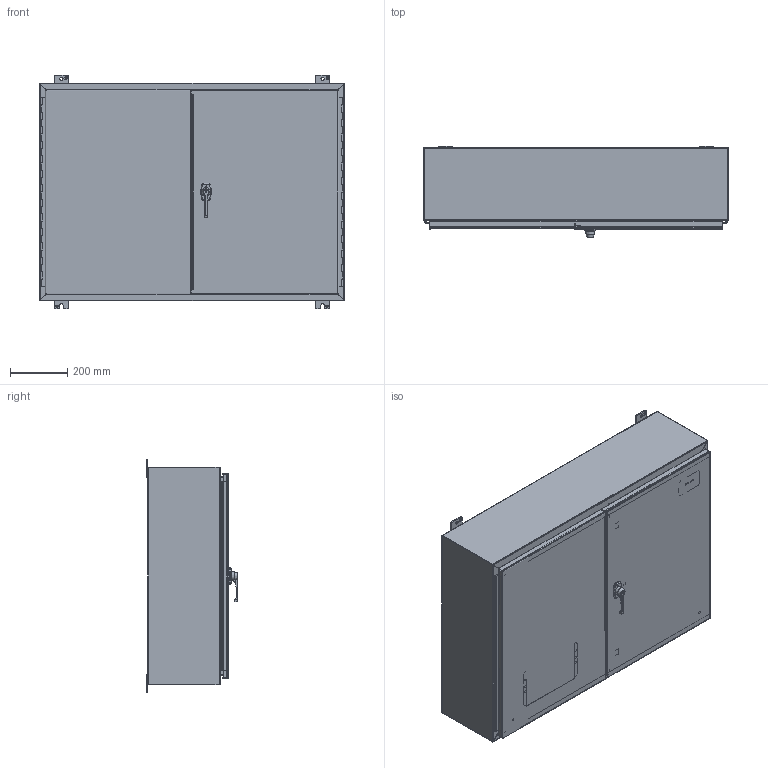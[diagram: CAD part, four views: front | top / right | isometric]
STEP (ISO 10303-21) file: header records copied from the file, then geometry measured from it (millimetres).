
FILE_DESCRIPTION(/* description */ ('Unknown'),/* implementation_level */ '2;1');
FILE_NAME(/* name */ '1422R10',/* time_stamp */ '2018-10-26T11:04:06-04:00',/* author */ ('Unknown'),/* organization */ ('Unknown'),/* preprocessor_version */ 'ST-DEVELOPER v16.7',/* originating_system */ 'DEX',/* authorisation */ $);
FILE_SCHEMA (('AUTOMOTIVE_DESIGN {1 0 10303 214 3 1 1}'));
Length unit declared in the file: millimetre
Products named in the file (48): 1422R10; fet07710; COM50798-7; COM50799-7; COM54578-26; STD21878; COM50795-3; COM12540-1; COM50797-3; COM52064-4; COM55702-16; std26094; KIT90256; LAB30005; NTS165305; NTS16535; PKT99; BUL10020; COM55702-12; AKT95002; WAF25059; NTS166105; NTS16640; QLB20204; COM40682; GSK11033_oa_0; COM51095; RVT19006; WAF24955; ROL18052; COM51095-1; GSK11033_oa_1; WAL25163; Com54575; COM50513; PIN17618; WAF250205; ROL18050; scs189755; WAL253528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
Assembly tree (75 placements, depth 4):
  1422R10
    fet07710  x4
    COM50798-7
      COM50799-7
      COM54578-26
      STD21878
    COM50795-3
      STD21878
      COM12540-1  x2
      COM50797-3
      COM54578-26
    COM52064-4
    COM55702-16  x2
    std26094  x6
    KIT90256
      LAB30005
      NTS165305
      NTS16535
    STD21878  x2
    PKT99
    BUL10020
    COM55702-12
    AKT95002  x6
      WAF25059
      NTS166105
    NTS16640
    QLB20204
    COM40682
    GSK11033_oa_0
    COM51095  x2
      RVT19006
      WAF24955
      ROL18052
      COM51095-1
    GSK11033_oa_1
    WAL25163
    NTS166105  x2
    Com54575
      COM50513
        PIN17618
        WAF250205  x2
        ROL18050
      Com54575
    scs189755  x2
    WAL253528  x2
    WAF250205  x2
    GSK11033_oa_2
    LOC13397
    LOC13070
    GSK11033_oa_3
    GSK11033_oa_4
    GSK11033_oa_5
    GSK11033_oa_6
Bounding box: 1066.8 x 320.98 x 819.15 mm (x, y, z)
Volume: 8535744.3 mm3; surface area: 7952497.5 mm2
Topology: 79 solids, 79 shells, 2022 faces, 5160 edges, 3329 vertices
Faces by surface type: plane 1200, cylinder 535, bspline 215, torus 48, cone 20, sphere 4
Full cylindrical faces by diameter (mm): 2.54 x2, 3.239 x2, 3.967 x2, 4.572 x2, 4.763 x8, 4.801 x2, 4.976 x1, 4.978 x2, 5.461 x4, 5.537 x4, 5.563 x1, 6.35 x6, 7.137 x4, 7.722 x10, 7.805 x9, 7.938 x8, 8.382 x6, 9.525 x6, 10.211 x2, 11.113 x4, 11.125 x1, 11.303 x6, 12.7 x12, 15.24 x1, 16.51 x6, 19.05 x4, 20.904 x1, 23.812 x1, 25.4 x7, 88.9 x1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
Entity records: 45913 total; most frequent: CARTESIAN_POINT 11910, ORIENTED_EDGE 7026, DIRECTION 6285, EDGE_CURVE 3513, VERTEX_POINT 2281, LINE 2265, VECTOR 2265, AXIS2_PLACEMENT_3D 2010
